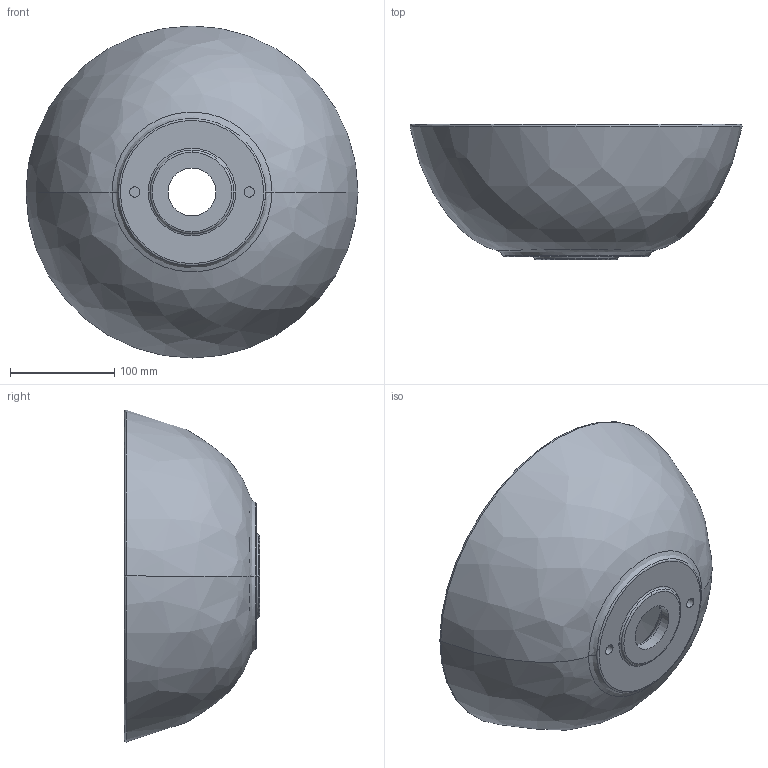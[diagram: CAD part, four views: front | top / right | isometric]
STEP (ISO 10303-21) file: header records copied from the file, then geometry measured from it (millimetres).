
FILE_DESCRIPTION (( 'STEP AP214' ), '1' );
FILE_NAME ('REC (PF-3D) Woodio S32T v1 [699].STEP', '2024-02-02T07:50:11', ( '' ), ( '' ), 'SwSTEP 2.0', 'SolidWorks 2022', '' );
FILE_SCHEMA (( 'AUTOMOTIVE_DESIGN' ));
Length unit declared in the file: millimetre
Products named in the file (1): REC (PF-3D) Woodio S32T v1 [699]
Bounding box: 319.21 x 130 x 319.21 mm (x, y, z)
Volume: 2467998.4 mm3; surface area: 261044.9 mm2
Topology: 1 solids, 1 shells, 33 faces, 70 edges, 42 vertices
Faces by surface type: bspline 10, torus 10, cylinder 6, plane 5, cone 2
Entity records: 2858 total; most frequent: CARTESIAN_POINT 2152, ORIENTED_EDGE 140, DIRECTION 140, EDGE_CURVE 70, AXIS2_PLACEMENT_3D 66, VERTEX_POINT 42, CIRCLE 42, EDGE_LOOP 38
